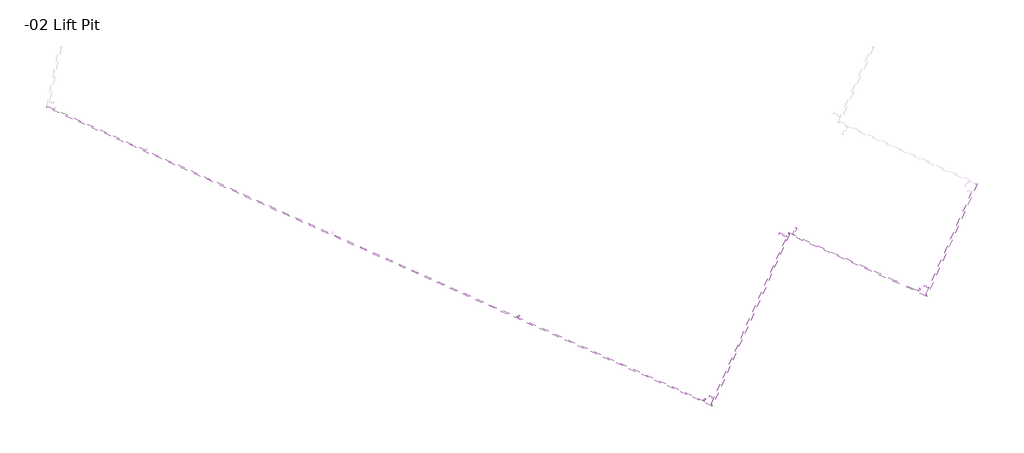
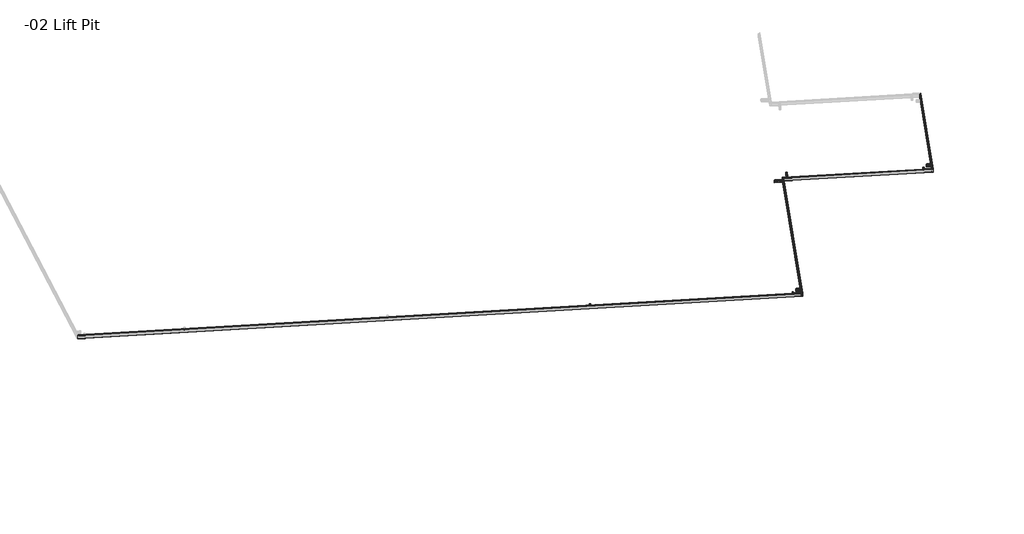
# One storey, part 2 of 3: 11 beams.
"""IFC4 building model written with IfcOpenShell, lengths in millimetres."""

from ifc_helpers import new_model, si_unit, frame, origin, place, context, project, spatial, polyline, ellipse_curve, transform, mapped, element, save
from ifc_brep_helpers import plane_surface, cylinder_surface, revolved_surface, advanced_brep
from components import hss_hollow_structural_section_hss3x2x1_8_9bae5ac0, hss_hollow_structural_section_hss3x2x1_8_4448584e, hss_hollow_structural_section_hss3x2x1_8_ec86c395, hss_hollow_structural_section_hss3x2x1_8_a59be2b4, hss_hollow_structural_section_hss3x2x1_8_24952963

model = new_model("IFC4")

# Units and contexts
model_context = context("Model", 3, world=origin())
ifc_project = project(units=[si_unit("LENGTHUNIT", "METRE", prefix="MILLI")], contexts=[model_context])

# Site, building, storey
site = spatial("IfcSite", under=ifc_project)
building = spatial("IfcBuilding", under=site)
storey = spatial("IfcBuildingStorey", under=building, Name="-02 Lift Pit", Elevation=-2133.6)

# Beams
placement = place(None, origin())
hss_hollow_structural_section_hss3x2x1_8_shape = hss_hollow_structural_section_hss3x2x1_8_9bae5ac0(model_context)
element("IfcBeam", 1, ObjectType="HSS-Hollow Structural Section : HSS3X2X1/8", at=placement, inside=storey, context=model_context, shape_type="MappedRepresentation", body=[
    mapped(hss_hollow_structural_section_hss3x2x1_8_shape, transform((57874.4831972, -20293.602729, 16256.4818369), x_axis=(0.9121951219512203, -0.40975609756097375, 0.0), y_axis=(0.4091945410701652, 0.9109449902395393, 0.052335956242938), z_axis=(-0.021444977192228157, -0.047740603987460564, 0.9986295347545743))),
])
element("IfcBeam", 2, ObjectType="HSS-Hollow Structural Section : HSS3X2X1/8", at=placement, inside=storey, context=model_context, shape_type="MappedRepresentation", body=[
    mapped(hss_hollow_structural_section_hss3x2x1_8_shape, transform((50488.6588069, -24090.2832168, 15916.3710717), x_axis=(0.9121951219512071, -0.4097560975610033, 0.0), y_axis=(0.4091945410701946, 0.910944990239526, 0.052335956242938), z_axis=(-0.021444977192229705, -0.04774060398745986, 0.9986295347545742))),
])
hss_hollow_structural_section_hss3x2x1_8_2_shape = hss_hollow_structural_section_hss3x2x1_8_4448584e(model_context)
element("IfcBeam", 3, ObjectType="HSS-Hollow Structural Section : HSS3X2X1/8", at=placement, inside=storey, context=model_context, shape_type="MappedRepresentation", body=[
    mapped(hss_hollow_structural_section_hss3x2x1_8_2_shape, transform((52986.4238112, -18529.7825525, 16235.8350597), x_axis=(0.9121951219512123, -0.4097560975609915, 0.0), y_axis=(0.4091945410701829, 0.9109449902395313, 0.052335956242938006), z_axis=(-0.021444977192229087, -0.04774060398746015, 0.9986295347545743))),
])
hss_hollow_structural_section_hss3x2x1_8_3_shape = hss_hollow_structural_section_hss3x2x1_8_ec86c395(model_context)
element("IfcBeam", 4, ObjectType="HSS-Hollow Structural Section : HSS3X2X1/8", at=placement, inside=storey, context=model_context, shape_type="MappedRepresentation", body=[
    mapped(hss_hollow_structural_section_hss3x2x1_8_3_shape, transform((57680.7339429, -20352.9969021, 16249.4817815), x_axis=(-0.40919454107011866, -0.9109449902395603, -0.052335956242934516), y_axis=(0.9121951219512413, -0.4097560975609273, 0.0), z_axis=(-0.021444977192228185, -0.047740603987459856, 0.9986295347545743))),
])
hss_hollow_structural_section_hss3x2x1_8_4_shape = hss_hollow_structural_section_hss3x2x1_8_a59be2b4(model_context)
element("IfcBeam", 5, ObjectType="HSS-Hollow Structural Section : HSS3X2X1/8", at=placement, inside=storey, context=model_context, shape_type="MappedRepresentation", body=[
    mapped(hss_hollow_structural_section_hss3x2x1_8_4_shape, transform((53373.5930685, -18411.7271821, 16249.7930592), x_axis=(0.40919454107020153, 0.9109449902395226, 0.05233595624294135), y_axis=(-0.9121951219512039, 0.4097560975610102, 0.0), z_axis=(-0.0214449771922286, -0.04774060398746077, 0.9986295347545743))),
])
hss_hollow_structural_section_hss3x2x1_8_5_shape = hss_hollow_structural_section_hss3x2x1_8_24952963(model_context)
element("IfcBeam", 6, ObjectType="HSS-Hollow Structural Section : HSS3X2X1/8", at=placement, inside=storey, context=model_context, shape_type="MappedRepresentation", body=[
    mapped(hss_hollow_structural_section_hss3x2x1_8_5_shape, transform((50298.5513886, -24141.5699695, 15909.8368069), x_axis=(-0.4091945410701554, -0.9109449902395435, -0.052335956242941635), y_axis=(0.9121951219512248, -0.40975609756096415, 0.0), z_axis=(-0.021444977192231, -0.047740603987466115, 0.9986295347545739))),
])
element("IfcBeam", 7, ObjectType="HSS-Hollow Structural Section : HSS3X2X1/8", at=placement, inside=storey, context=model_context, shape_type="MappedRepresentation", body=[
    mapped(hss_hollow_structural_section_hss3x2x1_8_5_shape, transform((43903.6987057, -21269.0158231, 15909.8368069), x_axis=(-0.40919454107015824, -0.9109449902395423, -0.05233595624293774), y_axis=(0.9121951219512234, -0.4097560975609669, 0.0), z_axis=(-0.021444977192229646, -0.04774060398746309, 0.998629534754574))),
])
element("IfcBeam", 8, ObjectType="HSS-Hollow Structural Section : HSS5X2X1/8", at=placement, inside=storey, context=model_context, shape_type="AdvancedBrep", body=[
    advanced_brep(
    [(57913.0353778, -20627.3136604, 16279.5085835), (57916.1258305, -20634.8149619, 16273.315454), (59660.4424441, -16751.6339293, 16496.4134399), (59652.5293881, -16754.8686611, 16501.9897587), (57893.4111119, -20575.7872998, 16281.5504394), (59600.9761633, -16774.422245, 16499.9479028), (57890.573401, -20567.7233466, 16275.9741206), (59593.3158492, -16777.0943251, 16493.7547733), (57893.0441712, -20562.2229416, 16160.9176179), (59595.7866194, -16771.59392, 16378.6982707), (57896.134624, -20569.7242431, 16154.7244885), (59603.6996754, -16768.3591883, 16373.1219519), (57915.7588899, -20621.2506036, 16152.6826325), (59655.2529002, -16748.8056044, 16375.1638078), (57918.5966007, -20629.3145568, 16158.2589513), (59662.9132143, -16746.1335243, 16381.3569373), (57913.0985632, -20627.1729974, 16276.5662214), (57893.4742974, -20575.6466369, 16278.6080773), (59601.0393487, -16774.2815821, 16497.0055407), (59652.5925736, -16754.7279982, 16499.0473967), (57914.6437896, -20630.9236482, 16273.4696567), (59656.5491016, -16753.1106323, 16496.2592373), (57917.1145598, -20625.4232432, 16158.413154), (59659.0198718, -16747.6102272, 16381.2027346), (57915.6957044, -20621.3912666, 16155.6249946), (59655.1897147, -16748.9462673, 16378.1061699), (57896.0714385, -20569.864906, 16157.6668505), (59603.6364899, -16768.4998512, 16376.0643139), (57894.5262121, -20566.1142553, 16160.7634153), (59599.6799619, -16770.1172171, 16378.8524733), (57892.0554419, -20571.6146603, 16275.8199179), (59597.2091917, -16775.6176221, 16493.908976)],
    [
        (0, 1, ellipse_curve(frame((57913.1617487, -20627.0323345, 16273.6238593), z_axis=(0.9343635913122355, 0.354394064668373, 0.03700710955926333), x_axis=(-0.3556751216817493, 0.933876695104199, 0.03700710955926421)), 8.3336777, 5.8928)),
        (1, 2),
        (2, 3, ellipse_curve(frame((59652.6557591, -16754.5873352, 16496.1050346), z_axis=(0.35567512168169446, -0.93387669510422, -0.03700710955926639), x_axis=(0.9343635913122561, 0.35439406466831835, 0.03700710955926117)), 8.3336777, 5.8928)),
        (3, 0),
        (4, 0),
        (3, 5),
        (5, 4),
        (6, 4, ellipse_curve(frame((57893.5374829, -20575.505974, 16275.6657153), z_axis=(0.9343635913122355, 0.354394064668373, 0.03700710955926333), x_axis=(-0.3556751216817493, 0.933876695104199, 0.03700710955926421)), 8.3336777, 5.8928)),
        (5, 7, ellipse_curve(frame((59601.1025342, -16774.1409192, 16494.0631787), z_axis=(0.35567512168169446, -0.93387669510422, -0.03700710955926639), x_axis=(0.9343635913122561, 0.35439406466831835, 0.03700710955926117)), 8.3336777, 5.8928)),
        (7, 6),
        (8, 6),
        (7, 9),
        (9, 8),
        (10, 8, ellipse_curve(frame((57896.008253, -20570.005569, 16160.6092126), z_axis=(0.9343635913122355, 0.354394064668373, 0.03700710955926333), x_axis=(-0.3556751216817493, 0.933876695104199, 0.03700710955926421)), 8.3336777, 5.8928)),
        (9, 11, ellipse_curve(frame((59603.5733044, -16768.6405141, 16379.006676), z_axis=(0.35567512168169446, -0.93387669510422, -0.03700710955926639), x_axis=(0.9343635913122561, 0.35439406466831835, 0.03700710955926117)), 8.3336777, 5.8928)),
        (11, 10),
        (12, 10),
        (11, 13),
        (13, 12),
        (14, 12, ellipse_curve(frame((57915.6325189, -20621.5319295, 16158.5673567), z_axis=(0.9343635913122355, 0.354394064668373, 0.03700710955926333), x_axis=(-0.3556751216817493, 0.933876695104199, 0.03700710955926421)), 8.3336777, 5.8928)),
        (13, 15, ellipse_curve(frame((59655.1265293, -16749.0869302, 16381.0485319), z_axis=(0.35567512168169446, -0.93387669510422, -0.03700710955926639), x_axis=(0.9343635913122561, 0.35439406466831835, 0.03700710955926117)), 8.3336777, 5.8928)),
        (15, 14),
        (1, 14),
        (15, 2),
        (16, 17),
        (17, 18),
        (18, 19),
        (19, 16),
        (20, 16, ellipse_curve(frame((57913.1617487, -20627.0323345, 16273.6238593), z_axis=(-0.9343635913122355, -0.354394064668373, -0.03700710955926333), x_axis=(-0.3556751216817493, 0.933876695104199, 0.03700710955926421)), 4.1668388, 2.9464)),
        (19, 21, ellipse_curve(frame((59652.6557591, -16754.5873352, 16496.1050346), z_axis=(-0.35567512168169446, 0.93387669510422, 0.03700710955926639), x_axis=(0.9343635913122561, 0.35439406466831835, 0.03700710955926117)), 4.1668388, 2.9464)),
        (21, 20),
        (22, 20),
        (21, 23),
        (23, 22),
        (24, 22, ellipse_curve(frame((57915.6325189, -20621.5319295, 16158.5673567), z_axis=(-0.9343635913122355, -0.354394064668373, -0.03700710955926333), x_axis=(-0.3556751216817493, 0.933876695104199, 0.03700710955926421)), 4.1668388, 2.9464)),
        (23, 25, ellipse_curve(frame((59655.1265293, -16749.0869302, 16381.0485319), z_axis=(-0.35567512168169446, 0.93387669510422, 0.03700710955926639), x_axis=(0.9343635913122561, 0.35439406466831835, 0.03700710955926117)), 4.1668388, 2.9464)),
        (25, 24),
        (26, 24),
        (25, 27),
        (27, 26),
        (28, 26, ellipse_curve(frame((57896.008253, -20570.005569, 16160.6092126), z_axis=(-0.9343635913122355, -0.354394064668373, -0.03700710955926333), x_axis=(-0.3556751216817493, 0.933876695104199, 0.03700710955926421)), 4.1668388, 2.9464)),
        (27, 29, ellipse_curve(frame((59603.5733044, -16768.6405141, 16379.006676), z_axis=(-0.35567512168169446, 0.93387669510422, 0.03700710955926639), x_axis=(0.9343635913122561, 0.35439406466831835, 0.03700710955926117)), 4.1668388, 2.9464)),
        (29, 28),
        (30, 28),
        (29, 31),
        (31, 30),
        (17, 30, ellipse_curve(frame((57893.5374829, -20575.505974, 16275.6657153), z_axis=(-0.9343635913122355, -0.354394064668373, -0.03700710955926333), x_axis=(-0.3556751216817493, 0.933876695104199, 0.03700710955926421)), 4.1668388, 2.9464)),
        (31, 18, ellipse_curve(frame((59601.1025342, -16774.1409192, 16494.0631787), z_axis=(-0.35567512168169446, 0.93387669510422, 0.03700710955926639), x_axis=(0.9343635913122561, 0.35439406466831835, 0.03700710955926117)), 4.1668388, 2.9464)),
    ],
    [
        cylinder_surface(frame((57921.1439885, -20609.2623484, 16274.6447873), z_axis=(0.4091945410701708, 0.9109449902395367, 0.052335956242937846), x_axis=(-0.021444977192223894, -0.04774060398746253, 0.9986295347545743)), 5.8928),
        plane_surface(frame((57903.2232448, -20601.5504801, 16280.5295114), z_axis=(-0.021444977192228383, -0.04774060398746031, 0.9986295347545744), x_axis=(-0.9121951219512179, 0.4097560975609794, 0.0))),
        cylinder_surface(frame((57885.5552431, -20593.2759601, 16274.6447873), z_axis=(0.4091945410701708, 0.9109449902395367, 0.052335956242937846), x_axis=(-0.912195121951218, 0.40975609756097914, 0.0)), 5.8928),
        plane_surface(frame((57881.4152448, -20588.1111469, 16217.116536), z_axis=(-0.912195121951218, 0.40975609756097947, 0.0), x_axis=(0.021444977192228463, 0.047740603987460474, -0.9986295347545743))),
        cylinder_surface(frame((57888.0260133, -20587.7755551, 16159.5882846), z_axis=(0.4091945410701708, 0.9109449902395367, 0.052335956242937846), x_axis=(0.021444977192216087, 0.04774060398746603, -0.9986295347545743)), 5.8928),
        plane_surface(frame((57905.9467569, -20595.4874234, 16153.7035605), z_axis=(0.021444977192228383, 0.04774060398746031, -0.9986295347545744), x_axis=(0.9121951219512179, -0.4097560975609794, 0.0))),
        cylinder_surface(frame((57923.6147586, -20603.7619434, 16159.5882846), z_axis=(0.4091945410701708, 0.9109449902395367, 0.052335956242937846), x_axis=(0.9121951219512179, -0.4097560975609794, 0.0)), 5.8928),
        plane_surface(frame((57927.754757, -20608.9267566, 16217.116536), z_axis=(0.912195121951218, -0.40975609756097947, 0.0), x_axis=(-0.021444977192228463, -0.047740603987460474, 0.9986295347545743))),
        plane_surface(frame((57903.2864303, -20601.4098172, 16277.5871494), z_axis=(0.021444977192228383, 0.04774060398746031, -0.9986295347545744), x_axis=(0.9121951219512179, -0.4097560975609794, 0.0))),
        revolved_surface(polyline([(59656.54910162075, -16753.110632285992, 16496.259237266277), (57914.64378965, -20630.923648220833, 16273.469656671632)]), (57921.1439885, -20609.2623484, 16274.6447873), (0.4091945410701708, 0.9109449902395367, 0.052335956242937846)),
        plane_surface(frame((57925.0670653, -20607.7194513, 16217.116536), z_axis=(-0.912195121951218, 0.40975609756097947, 0.0), x_axis=(0.021444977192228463, 0.047740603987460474, -0.9986295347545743))),
        revolved_surface(polyline([(59656.39536554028, -16746.26225890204, 16378.260372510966), (57914.490053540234, -20624.075274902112, 16155.470791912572)]), (57923.6147586, -20603.7619434, 16159.5882846), (0.4091945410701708, 0.9109449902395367, 0.052335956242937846)),
        plane_surface(frame((57905.8835714, -20595.6280863, 16156.6459226), z_axis=(-0.021444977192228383, -0.04774060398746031, 0.9986295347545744), x_axis=(-0.9121951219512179, 0.4097560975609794, 0.0))),
        revolved_surface(polyline([(59602.09126351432, -16764.749200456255, 16379.160878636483), (57892.11491054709, -20571.482271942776, 16160.455009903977)]), (57888.0260133, -20587.7755551, 16159.5882846), (0.4091945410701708, 0.9109449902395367, 0.052335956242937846)),
        plane_surface(frame((57884.1029365, -20589.3184522, 16217.116536), z_axis=(0.912195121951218, -0.40975609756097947, 0.0), x_axis=(-0.021444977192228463, -0.047740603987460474, 0.9986295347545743))),
        revolved_surface(polyline([(59602.244999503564, -16771.597573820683, 16497.159743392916), (57892.26864659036, -20578.330645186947, 16278.453874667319)]), (57885.5552431, -20593.2759601, 16274.6447873), (0.4091945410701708, 0.9109449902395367, 0.052335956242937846)),
        plane_surface(frame((59591.555371, -16781.0134849, 16575.735068), z_axis=(-0.3556751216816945, 0.9338766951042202, 0.0370071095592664), x_axis=(0.9346096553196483, 0.35539618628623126, 0.014083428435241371))),
        plane_surface(frame((57888.8129228, -20571.6425065, 16357.9544153), z_axis=(-0.9343635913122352, -0.3543940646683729, -0.037007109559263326), x_axis=(0.35632103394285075, -0.9293105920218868, -0.09704197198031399))),
    ],
    [
        (0, [[1, 2, 3, 4]]),
        (1, [[5, -4, 6, 7]]),
        (2, [[8, -7, 9, 10]]),
        (3, [[11, -10, 12, 13]]),
        (4, [[14, -13, 15, 16]]),
        (5, [[17, -16, 18, 19]]),
        (6, [[20, -19, 21, 22]]),
        (7, [[23, -22, 24, -2]]),
        (8, [[25, 26, 27, 28]]),
        (9, [[29, -28, 30, 31]]),
        (10, [[32, -31, 33, 34]]),
        (11, [[35, -34, 36, 37]]),
        (12, [[38, -37, 39, 40]]),
        (13, [[41, -40, 42, 43]]),
        (14, [[44, -43, 45, 46]]),
        (15, [[47, -46, 48, -26]]),
        (16, [[-24, -21, -18, -15, -12, -9, -6, -3], [-48, -45, -42, -39, -36, -33, -30, -27]]),
        (17, [[-1, -5, -8, -11, -14, -17, -20, -23], [-25, -29, -32, -35, -38, -41, -44, -47]]),
    ],
),
])
element("IfcBeam", 9, ObjectType="HSS-Hollow Structural Section : HSS5X2X1/8", at=placement, inside=storey, context=model_context, shape_type="AdvancedBrep", body=[
    advanced_brep(
    [(53186.4051338, -18504.1214652, 16279.5085835), (53189.4955866, -18511.6227668, 16273.315454), (57916.1258305, -20634.8149619, 16273.315454), (57913.0353778, -20627.3136604, 16279.5085835), (53166.780868, -18452.5951047, 16281.5504394), (57893.4111119, -20575.7872998, 16281.5504394), (53163.9431571, -18444.5311515, 16275.9741206), (57890.573401, -20567.7233466, 16275.9741206), (53166.4139273, -18439.0307465, 16160.9176179), (57893.0441712, -20562.2229416, 16160.9176179), (53169.5043801, -18446.532048, 16154.7244885), (57896.134624, -20569.7242431, 16154.7244885), (53189.128646, -18498.0584085, 16152.6826325), (57915.7588899, -20621.2506036, 16152.6826325), (53191.9663568, -18506.1223617, 16158.2589513), (57918.5966007, -20629.3145568, 16158.2589513), (53186.4683193, -18503.9808023, 16276.5662214), (53166.8440535, -18452.4544418, 16278.6080773), (57893.4742974, -20575.6466369, 16278.6080773), (57913.0985632, -20627.1729974, 16276.5662214), (53188.0135457, -18507.7314531, 16273.4696567), (57914.6437896, -20630.9236482, 16273.4696567), (53190.4843159, -18502.231048, 16158.413154), (57917.1145598, -20625.4232432, 16158.413154), (53189.0654605, -18498.1990714, 16155.6249946), (57915.6957044, -20621.3912666, 16155.6249946), (53169.4411946, -18446.6727109, 16157.6668505), (57896.0714385, -20569.864906, 16157.6668505), (53167.8959682, -18442.9220602, 16160.7634153), (57894.5262121, -20566.1142553, 16160.7634153), (53165.425198, -18448.4224652, 16275.8199179), (57892.0554419, -20571.6146603, 16275.8199179)],
    [
        (0, 1, ellipse_curve(frame((53186.5315048, -18503.8401394, 16273.6238593), z_axis=(0.9343635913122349, 0.354394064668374, 0.037007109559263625), x_axis=(0.3556751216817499, -0.9338766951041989, -0.03700710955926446)), 8.3336777, 5.8928)),
        (1, 2),
        (2, 3, ellipse_curve(frame((57913.1617487, -20627.0323345, 16273.6238593), z_axis=(-0.9343635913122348, -0.354394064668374, -0.03700710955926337), x_axis=(0.3556751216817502, -0.9338766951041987, -0.03700710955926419)), 8.3336777, 5.8928)),
        (3, 0),
        (4, 0),
        (3, 5),
        (5, 4),
        (6, 4, ellipse_curve(frame((53166.9072389, -18452.3137789, 16275.6657153), z_axis=(0.9343635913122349, 0.354394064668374, 0.037007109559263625), x_axis=(0.3556751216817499, -0.9338766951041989, -0.03700710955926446)), 8.3336777, 5.8928)),
        (5, 7, ellipse_curve(frame((57893.5374829, -20575.505974, 16275.6657153), z_axis=(-0.9343635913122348, -0.354394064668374, -0.03700710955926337), x_axis=(0.3556751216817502, -0.9338766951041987, -0.03700710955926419)), 8.3336777, 5.8928)),
        (7, 6),
        (8, 6),
        (7, 9),
        (9, 8),
        (10, 8, ellipse_curve(frame((53169.3780091, -18446.8133738, 16160.6092126), z_axis=(0.9343635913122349, 0.354394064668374, 0.037007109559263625), x_axis=(0.3556751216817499, -0.9338766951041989, -0.03700710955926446)), 8.3336777, 5.8928)),
        (9, 11, ellipse_curve(frame((57896.008253, -20570.005569, 16160.6092126), z_axis=(-0.9343635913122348, -0.354394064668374, -0.03700710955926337), x_axis=(0.3556751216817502, -0.9338766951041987, -0.03700710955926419)), 8.3336777, 5.8928)),
        (11, 10),
        (12, 10),
        (11, 13),
        (13, 12),
        (14, 12, ellipse_curve(frame((53189.002275, -18498.3397344, 16158.5673567), z_axis=(0.9343635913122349, 0.354394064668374, 0.037007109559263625), x_axis=(0.3556751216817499, -0.9338766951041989, -0.03700710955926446)), 8.3336777, 5.8928)),
        (13, 15, ellipse_curve(frame((57915.6325189, -20621.5319295, 16158.5673567), z_axis=(-0.9343635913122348, -0.354394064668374, -0.03700710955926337), x_axis=(0.3556751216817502, -0.9338766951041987, -0.03700710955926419)), 8.3336777, 5.8928)),
        (15, 14),
        (1, 14),
        (15, 2),
        (16, 17),
        (17, 18),
        (18, 19),
        (19, 16),
        (20, 16, ellipse_curve(frame((53186.5315048, -18503.8401394, 16273.6238593), z_axis=(-0.9343635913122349, -0.354394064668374, -0.037007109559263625), x_axis=(0.3556751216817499, -0.9338766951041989, -0.03700710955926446)), 4.1668388, 2.9464)),
        (19, 21, ellipse_curve(frame((57913.1617487, -20627.0323345, 16273.6238593), z_axis=(0.9343635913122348, 0.354394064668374, 0.03700710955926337), x_axis=(0.3556751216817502, -0.9338766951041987, -0.03700710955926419)), 4.1668388, 2.9464)),
        (21, 20),
        (22, 20),
        (21, 23),
        (23, 22),
        (24, 22, ellipse_curve(frame((53189.002275, -18498.3397344, 16158.5673567), z_axis=(-0.9343635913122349, -0.354394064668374, -0.037007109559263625), x_axis=(0.3556751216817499, -0.9338766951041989, -0.03700710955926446)), 4.1668388, 2.9464)),
        (23, 25, ellipse_curve(frame((57915.6325189, -20621.5319295, 16158.5673567), z_axis=(0.9343635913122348, 0.354394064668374, 0.03700710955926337), x_axis=(0.3556751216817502, -0.9338766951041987, -0.03700710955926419)), 4.1668388, 2.9464)),
        (25, 24),
        (26, 24),
        (25, 27),
        (27, 26),
        (28, 26, ellipse_curve(frame((53169.3780091, -18446.8133738, 16160.6092126), z_axis=(-0.9343635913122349, -0.354394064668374, -0.037007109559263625), x_axis=(0.3556751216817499, -0.9338766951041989, -0.03700710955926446)), 4.1668388, 2.9464)),
        (27, 29, ellipse_curve(frame((57896.008253, -20570.005569, 16160.6092126), z_axis=(0.9343635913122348, 0.354394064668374, 0.03700710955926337), x_axis=(0.3556751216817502, -0.9338766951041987, -0.03700710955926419)), 4.1668388, 2.9464)),
        (29, 28),
        (30, 28),
        (29, 31),
        (31, 30),
        (17, 30, ellipse_curve(frame((53166.9072389, -18452.3137789, 16275.6657153), z_axis=(-0.9343635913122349, -0.354394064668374, -0.037007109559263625), x_axis=(0.3556751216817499, -0.9338766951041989, -0.03700710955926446)), 4.1668388, 2.9464)),
        (31, 18, ellipse_curve(frame((57893.5374829, -20575.505974, 16275.6657153), z_axis=(0.9343635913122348, 0.354394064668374, 0.03700710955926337), x_axis=(0.3556751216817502, -0.9338766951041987, -0.03700710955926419)), 4.1668388, 2.9464)),
    ],
    [
        cylinder_surface(frame((53168.7371321, -18495.8469453, 16273.6238593), z_axis=(0.9121951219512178, -0.4097560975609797, 0.0), x_axis=(-0.021444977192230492, -0.047740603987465, 0.998629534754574)), 5.8928),
        plane_surface(frame((53176.5930009, -18478.358285, 16280.5295114), z_axis=(-0.021444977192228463, -0.04774060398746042, 0.9986295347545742), x_axis=(0.409194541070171, 0.9109449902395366, 0.05233595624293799))),
        cylinder_surface(frame((53184.7016116, -18460.306973, 16275.6657153), z_axis=(0.9121951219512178, -0.4097560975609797, 0.0), x_axis=(0.409194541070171, 0.9109449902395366, 0.05233595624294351)), 5.8928),
        plane_surface(frame((53188.3482983, -18452.1887539, 16218.4458693), z_axis=(0.4091945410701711, 0.9109449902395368, 0.052335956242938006), x_axis=(0.021444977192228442, 0.04774060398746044, -0.9986295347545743))),
        cylinder_surface(frame((53187.1723818, -18454.806568, 16160.6092126), z_axis=(0.9121951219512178, -0.4097560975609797, 0.0), x_axis=(0.021444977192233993, 0.0477406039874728, -0.9986295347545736)), 5.8928),
        plane_surface(frame((53179.316513, -18472.2952283, 16153.7035605), z_axis=(0.021444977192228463, 0.04774060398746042, -0.9986295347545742), x_axis=(-0.409194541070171, -0.9109449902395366, -0.05233595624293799))),
        cylinder_surface(frame((53171.2079023, -18490.3465402, 16158.5673567), z_axis=(0.9121951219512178, -0.4097560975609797, 0.0), x_axis=(-0.4091945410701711, -0.9109449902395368, -0.05233595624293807)), 5.8928),
        plane_surface(frame((53167.5612156, -18498.4647594, 16215.7872027), z_axis=(-0.4091945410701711, -0.9109449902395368, -0.052335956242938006), x_axis=(-0.021444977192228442, -0.04774060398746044, 0.9986295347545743))),
        plane_surface(frame((53176.6561864, -18478.2176221, 16277.5871494), z_axis=(0.021444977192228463, 0.04774060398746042, -0.9986295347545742), x_axis=(-0.409194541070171, -0.9109449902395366, -0.05233595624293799))),
        revolved_surface(polyline([(57914.64378957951, -20630.92364824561, 16273.469656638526), (53182.638162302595, -18505.316842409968, 16273.469656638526)]), (53168.7371321, -18495.8469453, 16273.6238593), (0.9121951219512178, -0.4097560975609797, 0.0)),
        plane_surface(frame((53168.7668664, -18495.7807511, 16215.9414053), z_axis=(0.4091945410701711, 0.9109449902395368, 0.052335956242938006), x_axis=(0.021444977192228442, 0.04774060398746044, -0.9986295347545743))),
        revolved_surface(polyline([(57918.3833960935, -20622.598571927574, 16155.624994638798), (53186.37776881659, -18496.99176609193, 16155.624994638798)]), (53171.2079023, -18490.3465402, 16158.5673567), (0.9121951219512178, -0.4097560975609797, 0.0)),
        plane_surface(frame((53179.2533275, -18472.4358912, 16156.6459226), z_axis=(-0.021444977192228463, -0.04774060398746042, 0.9986295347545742), x_axis=(0.409194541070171, 0.9109449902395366, 0.05233595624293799))),
        revolved_surface(polyline([(57899.9015954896, -20568.528866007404, 16160.763415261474), (53167.89596819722, -18442.922060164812, 16160.763415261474)]), (53187.1723818, -18454.806568, 16160.6092126), (0.9121951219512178, -0.4097560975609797, 0.0)),
        plane_surface(frame((53187.1426475, -18454.8727622, 16218.2916666), z_axis=(-0.4091945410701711, -0.9109449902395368, -0.052335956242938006), x_axis=(-0.021444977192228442, -0.04774060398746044, 0.9986295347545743))),
        revolved_surface(polyline([(57896.161989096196, -20576.85394227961, 16278.608077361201), (53164.15636173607, -18451.24713640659, 16278.608077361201)]), (53184.7016116, -18460.306973, 16275.6657153), (0.9121951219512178, -0.4097560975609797, 0.0)),
        plane_surface(frame((57888.8129228, -20571.6425065, 16357.9544153), z_axis=(0.934363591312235, 0.35439406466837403, 0.037007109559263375), x_axis=(0.3563210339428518, -0.9293105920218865, -0.09704197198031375))),
        plane_surface(frame((53187.7351084, -18515.5419266, 16355.2957487), z_axis=(-0.9343635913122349, -0.354394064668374, -0.037007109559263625), x_axis=(0.35632103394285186, -0.9293105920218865, -0.09704197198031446))),
    ],
    [
        (0, [[1, 2, 3, 4]]),
        (1, [[5, -4, 6, 7]]),
        (2, [[8, -7, 9, 10]]),
        (3, [[11, -10, 12, 13]]),
        (4, [[14, -13, 15, 16]]),
        (5, [[17, -16, 18, 19]]),
        (6, [[20, -19, 21, 22]]),
        (7, [[23, -22, 24, -2]]),
        (8, [[25, 26, 27, 28]]),
        (9, [[29, -28, 30, 31]]),
        (10, [[32, -31, 33, 34]]),
        (11, [[35, -34, 36, 37]]),
        (12, [[38, -37, 39, 40]]),
        (13, [[41, -40, 42, 43]]),
        (14, [[44, -43, 45, 46]]),
        (15, [[47, -46, 48, -26]]),
        (16, [[-24, -21, -18, -15, -12, -9, -6, -3], [-48, -45, -42, -39, -36, -33, -30, -27]]),
        (17, [[-1, -5, -8, -11, -14, -17, -20, -23], [-25, -29, -32, -35, -38, -41, -44, -47]]),
    ],
),
])
element("IfcBeam", 10, ObjectType="HSS-Hollow Structural Section : HSS5X2X1/8", at=placement, inside=storey, context=model_context, shape_type="AdvancedBrep", body=[
    advanced_brep(
    [(50534.4946594, -24407.7793072, 15940.3293994), (50537.5851122, -24415.2806087, 15934.13627), (53189.4955866, -18511.6227668, 16273.315454), (53186.4051338, -18504.1214652, 16279.5085835), (50514.8703935, -24356.2529467, 15942.3712554), (53166.780868, -18452.5951047, 16281.5504394), (50512.0326827, -24348.1889935, 15936.7949366), (53163.9431571, -18444.5311515, 16275.9741206), (50514.5034528, -24342.6885884, 15821.7384339), (53166.4139273, -18439.0307465, 16160.9176179), (50517.5939056, -24350.1898899, 15815.5453044), (53169.5043801, -18446.532048, 16154.7244885), (50537.2181715, -24401.7162505, 15813.5034485), (53189.128646, -18498.0584085, 16152.6826325), (50540.0558824, -24409.7802037, 15819.0797673), (53191.9663568, -18506.1223617, 16158.2589513), (50534.5578449, -24407.6386443, 15937.3870374), (50514.933579, -24356.1122837, 15939.4288933), (53166.8440535, -18452.4544418, 16278.6080773), (53186.4683193, -18503.9808023, 16276.5662214), (50536.1030713, -24411.389295, 15934.2904726), (53188.0135457, -18507.7314531, 16273.4696567), (50538.5738414, -24405.88889, 15819.23397), (53190.4843159, -18502.231048, 16158.413154), (50537.154986, -24401.8569134, 15816.4458106), (53189.0654605, -18498.1990714, 16155.6249946), (50517.5307202, -24350.3305529, 15818.4876665), (53169.4411946, -18446.6727109, 16157.6668505), (50515.9854938, -24346.5799021, 15821.5842312), (53167.8959682, -18442.9220602, 16160.7634153), (50513.5147236, -24352.0803071, 15936.6407339), (53165.425198, -18448.4224652, 16275.8199179)],
    [
        (0, 1, ellipse_curve(frame((50534.6210304, -24407.4979813, 15934.4446753), z_axis=(0.9343635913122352, 0.354394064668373, 0.0370071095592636), x_axis=(-0.3556751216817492, 0.9338766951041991, 0.037007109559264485)), 8.3336777, 5.8928)),
        (1, 2),
        (2, 3, ellipse_curve(frame((53186.5315048, -18503.8401394, 16273.6238593), z_axis=(-0.9343635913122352, -0.354394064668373, -0.0370071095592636), x_axis=(-0.3556751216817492, 0.9338766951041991, 0.037007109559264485)), 8.3336777, 5.8928)),
        (3, 0),
        (4, 0),
        (3, 5),
        (5, 4),
        (6, 4, ellipse_curve(frame((50514.9967645, -24355.9716208, 15936.4865312), z_axis=(0.9343635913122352, 0.354394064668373, 0.0370071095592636), x_axis=(-0.3556751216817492, 0.9338766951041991, 0.037007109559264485)), 8.3336777, 5.8928)),
        (5, 7, ellipse_curve(frame((53166.9072389, -18452.3137789, 16275.6657153), z_axis=(-0.9343635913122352, -0.354394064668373, -0.0370071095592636), x_axis=(-0.3556751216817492, 0.9338766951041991, 0.037007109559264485)), 8.3336777, 5.8928)),
        (7, 6),
        (8, 6),
        (7, 9),
        (9, 8),
        (10, 8, ellipse_curve(frame((50517.4675347, -24350.4712158, 15821.4300286), z_axis=(0.9343635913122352, 0.354394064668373, 0.0370071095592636), x_axis=(-0.3556751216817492, 0.9338766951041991, 0.037007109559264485)), 8.3336777, 5.8928)),
        (9, 11, ellipse_curve(frame((53169.3780091, -18446.8133738, 16160.6092126), z_axis=(-0.9343635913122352, -0.354394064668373, -0.0370071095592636), x_axis=(-0.3556751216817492, 0.9338766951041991, 0.037007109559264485)), 8.3336777, 5.8928)),
        (11, 10),
        (12, 10),
        (11, 13),
        (13, 12),
        (14, 12, ellipse_curve(frame((50537.0918005, -24401.9975763, 15819.3881726), z_axis=(0.9343635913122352, 0.354394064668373, 0.0370071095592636), x_axis=(-0.3556751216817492, 0.9338766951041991, 0.037007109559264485)), 8.3336777, 5.8928)),
        (13, 15, ellipse_curve(frame((53189.002275, -18498.3397344, 16158.5673567), z_axis=(-0.9343635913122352, -0.354394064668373, -0.0370071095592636), x_axis=(-0.3556751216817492, 0.9338766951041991, 0.037007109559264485)), 8.3336777, 5.8928)),
        (15, 14),
        (1, 14),
        (15, 2),
        (16, 17),
        (17, 18),
        (18, 19),
        (19, 16),
        (20, 16, ellipse_curve(frame((50534.6210304, -24407.4979813, 15934.4446753), z_axis=(-0.9343635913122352, -0.354394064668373, -0.0370071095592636), x_axis=(-0.3556751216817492, 0.9338766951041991, 0.037007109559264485)), 4.1668388, 2.9464)),
        (19, 21, ellipse_curve(frame((53186.5315048, -18503.8401394, 16273.6238593), z_axis=(0.9343635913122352, 0.354394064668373, 0.0370071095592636), x_axis=(-0.3556751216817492, 0.9338766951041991, 0.037007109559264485)), 4.1668388, 2.9464)),
        (21, 20),
        (22, 20),
        (21, 23),
        (23, 22),
        (24, 22, ellipse_curve(frame((50537.0918005, -24401.9975763, 15819.3881726), z_axis=(-0.9343635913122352, -0.354394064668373, -0.0370071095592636), x_axis=(-0.3556751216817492, 0.9338766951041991, 0.037007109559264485)), 4.1668388, 2.9464)),
        (23, 25, ellipse_curve(frame((53189.002275, -18498.3397344, 16158.5673567), z_axis=(0.9343635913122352, 0.354394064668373, 0.0370071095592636), x_axis=(-0.3556751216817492, 0.9338766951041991, 0.037007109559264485)), 4.1668388, 2.9464)),
        (25, 24),
        (26, 24),
        (25, 27),
        (27, 26),
        (28, 26, ellipse_curve(frame((50517.4675347, -24350.4712158, 15821.4300286), z_axis=(-0.9343635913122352, -0.354394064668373, -0.0370071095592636), x_axis=(-0.3556751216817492, 0.9338766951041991, 0.037007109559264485)), 4.1668388, 2.9464)),
        (27, 29, ellipse_curve(frame((53169.3780091, -18446.8133738, 16160.6092126), z_axis=(0.9343635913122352, 0.354394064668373, 0.0370071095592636), x_axis=(-0.3556751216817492, 0.9338766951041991, 0.037007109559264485)), 4.1668388, 2.9464)),
        (29, 28),
        (30, 28),
        (29, 31),
        (31, 30),
        (17, 30, ellipse_curve(frame((50514.9967645, -24355.9716208, 15936.4865312), z_axis=(-0.9343635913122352, -0.354394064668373, -0.0370071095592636), x_axis=(-0.3556751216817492, 0.9338766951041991, 0.037007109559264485)), 4.1668388, 2.9464)),
        (31, 18, ellipse_curve(frame((53166.9072389, -18452.3137789, 16275.6657153), z_axis=(0.9343635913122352, 0.354394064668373, 0.0370071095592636), x_axis=(-0.3556751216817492, 0.9338766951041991, 0.037007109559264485)), 4.1668388, 2.9464)),
    ],
    [
        cylinder_surface(frame((50542.6032701, -24389.7279952, 15935.4656033), z_axis=(0.40919454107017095, 0.9109449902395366, 0.05233595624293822), x_axis=(-0.021444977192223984, -0.04774060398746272, 0.9986295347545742)), 5.8928),
        plane_surface(frame((50524.6825265, -24382.0161269, 15941.3503274), z_axis=(-0.02144497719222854, -0.04774060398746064, 0.9986295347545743), x_axis=(-0.9121951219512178, 0.40975609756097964, 0.0))),
        cylinder_surface(frame((50507.0145247, -24373.7416069, 15935.4656033), z_axis=(0.40919454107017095, 0.9109449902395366, 0.05233595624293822), x_axis=(-0.9121951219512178, 0.4097560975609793, 0.0)), 5.8928),
        plane_surface(frame((50502.8745264, -24368.5767937, 15877.9373519), z_axis=(-0.9121951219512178, 0.40975609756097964, 0.0), x_axis=(0.021444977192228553, 0.04774060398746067, -0.9986295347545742))),
        cylinder_surface(frame((50509.4852949, -24368.2412019, 15820.4091006), z_axis=(0.40919454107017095, 0.9109449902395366, 0.05233595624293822), x_axis=(0.021444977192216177, 0.047740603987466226, -0.9986295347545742)), 5.8928),
        plane_surface(frame((50527.4060386, -24375.9530702, 15814.5243765), z_axis=(0.02144497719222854, 0.04774060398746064, -0.9986295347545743), x_axis=(0.9121951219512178, -0.40975609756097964, 0.0))),
        cylinder_surface(frame((50545.0740403, -24384.2275902, 15820.4091006), z_axis=(0.40919454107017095, 0.9109449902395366, 0.05233595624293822), x_axis=(0.9121951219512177, -0.4097560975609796, 0.0)), 5.8928),
        plane_surface(frame((50549.2140386, -24389.3924034, 15877.9373519), z_axis=(0.9121951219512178, -0.40975609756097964, 0.0), x_axis=(-0.021444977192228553, -0.04774060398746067, 0.9986295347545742))),
        plane_surface(frame((50524.7457119, -24381.875464, 15938.4079653), z_axis=(0.02144497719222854, 0.04774060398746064, -0.9986295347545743), x_axis=(0.9121951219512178, -0.40975609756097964, 0.0))),
        revolved_surface(polyline([(53190.424847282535, -18502.36343647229, 16273.778062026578), (50536.1030712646, -24411.389294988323, 15934.290472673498)]), (50542.6032701, -24389.7279952, 15935.4656033), (0.40919454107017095, 0.9109449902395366, 0.05233595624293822)),
        plane_surface(frame((50546.5263469, -24388.1850981, 15877.9373519), z_axis=(-0.9121951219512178, 0.40975609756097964, 0.0), x_axis=(0.021444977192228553, 0.04774060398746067, -0.9986295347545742))),
        revolved_surface(polyline([(53190.27111125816, -18495.515063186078, 16155.779197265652), (50535.949335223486, -24404.540921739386, 15816.29160791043)]), (50545.0740403, -24384.2275902, 15820.4091006), (0.40919454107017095, 0.9109449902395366, 0.05233595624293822)),
        plane_surface(frame((50527.3428531, -24376.0937331, 15817.4667385), z_axis=(-0.02144497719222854, -0.04774060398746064, 0.9986295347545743), x_axis=(-0.9121951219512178, 0.40975609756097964, 0.0))),
        revolved_surface(polyline([(53167.89596819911, -18442.922060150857, 16160.763415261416), (50513.57419216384, -24351.9479187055, 15821.275825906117)]), (50509.4852949, -24368.2412019, 15820.4091006), (0.40919454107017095, 0.9109449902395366, 0.05233595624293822)),
        plane_surface(frame((50505.5622181, -24369.7840991, 15877.9373519), z_axis=(0.9121951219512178, -0.40975609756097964, 0.0), x_axis=(-0.021444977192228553, -0.04774060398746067, 0.9986295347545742))),
        revolved_surface(polyline([(53168.04970420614, -18449.770433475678, 16278.762280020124), (50513.72792818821, -24358.79629199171, 15939.274690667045)]), (50507.0145247, -24373.7416069, 15935.4656033), (0.40919454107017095, 0.9109449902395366, 0.05233595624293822)),
        plane_surface(frame((53187.7351084, -18515.5419266, 16355.2957487), z_axis=(0.9343635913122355, 0.35439406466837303, 0.037007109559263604), x_axis=(0.35632103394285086, -0.9293105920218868, -0.09704197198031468))),
        plane_surface(frame((50510.2722044, -24352.1081533, 16018.7752312), z_axis=(-0.9343635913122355, -0.35439406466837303, -0.037007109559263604), x_axis=(0.35632103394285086, -0.9293105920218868, -0.09704197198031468))),
    ],
    [
        (0, [[1, 2, 3, 4]]),
        (1, [[5, -4, 6, 7]]),
        (2, [[8, -7, 9, 10]]),
        (3, [[11, -10, 12, 13]]),
        (4, [[14, -13, 15, 16]]),
        (5, [[17, -16, 18, 19]]),
        (6, [[20, -19, 21, 22]]),
        (7, [[23, -22, 24, -2]]),
        (8, [[25, 26, 27, 28]]),
        (9, [[29, -28, 30, 31]]),
        (10, [[32, -31, 33, 34]]),
        (11, [[35, -34, 36, 37]]),
        (12, [[38, -37, 39, 40]]),
        (13, [[41, -40, 42, 43]]),
        (14, [[44, -43, 45, 46]]),
        (15, [[47, -46, 48, -26]]),
        (16, [[-24, -21, -18, -15, -12, -9, -6, -3], [-48, -45, -42, -39, -36, -33, -30, -27]]),
        (17, [[-1, -5, -8, -11, -14, -17, -20, -23], [-25, -29, -32, -35, -38, -41, -44, -47]]),
    ],
),
])
element("IfcBeam", 11, ObjectType="HSS-Hollow Structural Section : HSS5X2X1/8", at=placement, inside=storey, context=model_context, shape_type="AdvancedBrep", body=[
    advanced_brep(
    [(27653.9377637, -14129.882092, 15940.3293994), (27647.3085375, -14133.0173345, 15934.13627), (50537.5851122, -24415.2806087, 15934.13627), (50534.4946594, -24407.7793072, 15940.3293994), (27698.6644754, -14107.262053, 15942.3712554), (50514.8703935, -24356.2529467, 15942.3712554), (27705.5464435, -14103.5641587, 15936.7949366), (50512.0326827, -24348.1889935, 15936.7949366), (27708.0172137, -14098.0637537, 15821.7384339), (50514.5034528, -24342.6885884, 15821.7384339), (27701.3879876, -14101.1989963, 15815.5453044), (50517.5939056, -24350.1898899, 15815.5453044), (27656.6612758, -14123.8190353, 15813.5034485), (50537.2181715, -24401.7162505, 15813.5034485), (27649.7793077, -14127.5169295, 15819.0797673), (50540.0558824, -24409.7802037, 15819.0797673), (27654.0009491, -14129.7414291, 15937.3870374), (27698.7276609, -14107.1213901, 15939.4288933), (50514.933579, -24356.1122837, 15939.4288933), (50534.5578449, -24407.6386443, 15937.3870374), (27650.6863361, -14131.3090503, 15934.2904726), (50536.1030713, -24411.389295, 15934.2904726), (27653.1571062, -14125.8086453, 15819.23397), (50538.5738414, -24405.88889, 15819.23397), (27656.5980903, -14123.9596982, 15816.4458106), (50537.154986, -24401.8569134, 15816.4458106), (27701.3248021, -14101.3396592, 15818.4876665), (50517.5307202, -24350.3305529, 15818.4876665), (27704.6394151, -14099.7720379, 15821.5842312), (50515.9854938, -24346.5799021, 15821.5842312), (27702.168645, -14105.2724429, 15936.6407339), (50513.5147236, -24352.0803071, 15936.6407339)],
    [
        (0, 1, ellipse_curve(frame((27654.0641346, -14129.6007661, 15934.4446753), z_axis=(0.45225713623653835, -0.8912807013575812, -0.032896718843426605), x_axis=(0.8916297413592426, 0.450931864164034, 0.04070452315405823)), 7.5766843, 5.8928)),
        (1, 2),
        (2, 3, ellipse_curve(frame((50534.6210304, -24407.4979813, 15934.4446753), z_axis=(-0.9343635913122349, -0.354394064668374, -0.037007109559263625), x_axis=(0.3556751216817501, -0.9338766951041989, -0.03700710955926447)), 8.3336777, 5.8928)),
        (3, 0),
        (4, 0),
        (3, 5),
        (5, 4),
        (6, 4, ellipse_curve(frame((27698.7908464, -14106.9807271, 15936.4865312), z_axis=(0.45225713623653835, -0.8912807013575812, -0.032896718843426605), x_axis=(0.8916297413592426, 0.450931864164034, 0.04070452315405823)), 7.5766843, 5.8928)),
        (5, 7, ellipse_curve(frame((50514.9967645, -24355.9716208, 15936.4865312), z_axis=(-0.9343635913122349, -0.354394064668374, -0.037007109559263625), x_axis=(0.3556751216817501, -0.9338766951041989, -0.03700710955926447)), 8.3336777, 5.8928)),
        (7, 6),
        (8, 6),
        (7, 9),
        (9, 8),
        (10, 8, ellipse_curve(frame((27701.2616166, -14101.4803221, 15821.4300286), z_axis=(0.45225713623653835, -0.8912807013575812, -0.032896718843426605), x_axis=(0.8916297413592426, 0.450931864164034, 0.04070452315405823)), 7.5766843, 5.8928)),
        (9, 11, ellipse_curve(frame((50517.4675347, -24350.4712158, 15821.4300286), z_axis=(-0.9343635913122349, -0.354394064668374, -0.037007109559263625), x_axis=(0.3556751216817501, -0.9338766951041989, -0.03700710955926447)), 8.3336777, 5.8928)),
        (11, 10),
        (12, 10),
        (11, 13),
        (13, 12),
        (14, 12, ellipse_curve(frame((27656.5349048, -14124.1003611, 15819.3881726), z_axis=(0.45225713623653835, -0.8912807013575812, -0.032896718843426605), x_axis=(0.8916297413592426, 0.450931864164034, 0.04070452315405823)), 7.5766843, 5.8928)),
        (13, 15, ellipse_curve(frame((50537.0918005, -24401.9975763, 15819.3881726), z_axis=(-0.9343635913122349, -0.354394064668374, -0.037007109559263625), x_axis=(0.3556751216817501, -0.9338766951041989, -0.03700710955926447)), 8.3336777, 5.8928)),
        (15, 14),
        (1, 14),
        (15, 2),
        (16, 17),
        (17, 18),
        (18, 19),
        (19, 16),
        (20, 16, ellipse_curve(frame((27654.0641346, -14129.6007661, 15934.4446753), z_axis=(-0.45225713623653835, 0.8912807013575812, 0.032896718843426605), x_axis=(0.8916297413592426, 0.450931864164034, 0.04070452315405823)), 3.7883422, 2.9464)),
        (19, 21, ellipse_curve(frame((50534.6210304, -24407.4979813, 15934.4446753), z_axis=(0.9343635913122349, 0.354394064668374, 0.037007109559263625), x_axis=(0.3556751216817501, -0.9338766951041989, -0.03700710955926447)), 4.1668388, 2.9464)),
        (21, 20),
        (22, 20),
        (21, 23),
        (23, 22),
        (24, 22, ellipse_curve(frame((27656.5349048, -14124.1003611, 15819.3881726), z_axis=(-0.45225713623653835, 0.8912807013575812, 0.032896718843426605), x_axis=(0.8916297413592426, 0.450931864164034, 0.04070452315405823)), 3.7883422, 2.9464)),
        (23, 25, ellipse_curve(frame((50537.0918005, -24401.9975763, 15819.3881726), z_axis=(0.9343635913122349, 0.354394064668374, 0.037007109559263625), x_axis=(0.3556751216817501, -0.9338766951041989, -0.03700710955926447)), 4.1668388, 2.9464)),
        (25, 24),
        (26, 24),
        (25, 27),
        (27, 26),
        (28, 26, ellipse_curve(frame((27701.2616166, -14101.4803221, 15821.4300286), z_axis=(-0.45225713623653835, 0.8912807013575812, 0.032896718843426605), x_axis=(0.8916297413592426, 0.450931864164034, 0.04070452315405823)), 3.7883422, 2.9464)),
        (27, 29, ellipse_curve(frame((50517.4675347, -24350.4712158, 15821.4300286), z_axis=(0.9343635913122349, 0.354394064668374, 0.037007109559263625), x_axis=(0.3556751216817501, -0.9338766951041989, -0.03700710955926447)), 4.1668388, 2.9464)),
        (29, 28),
        (30, 28),
        (29, 31),
        (31, 30),
        (17, 30, ellipse_curve(frame((27698.7908464, -14106.9807271, 15936.4865312), z_axis=(-0.45225713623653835, 0.8912807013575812, 0.032896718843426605), x_axis=(0.8916297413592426, 0.450931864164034, 0.04070452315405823)), 3.7883422, 2.9464)),
        (31, 18, ellipse_curve(frame((50514.9967645, -24355.9716208, 15936.4865312), z_axis=(0.9343635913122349, 0.354394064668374, 0.037007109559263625), x_axis=(0.3556751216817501, -0.9338766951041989, -0.03700710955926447)), 4.1668388, 2.9464)),
    ],
    [
        cylinder_surface(frame((27668.4452508, -14136.0607328, 15934.4446753), z_axis=(0.9121951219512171, -0.40975609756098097, 0.0), x_axis=(-0.021444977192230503, -0.047740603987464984, 0.9986295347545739)), 5.8928),
        plane_surface(frame((27676.3011195, -14118.5720725, 15941.3503274), z_axis=(-0.021444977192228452, -0.047740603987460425, 0.9986295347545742), x_axis=(0.40919454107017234, 0.910944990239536, 0.052335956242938))),
        cylinder_surface(frame((27684.4097303, -14100.5207605, 15936.4865312), z_axis=(0.9121951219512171, -0.40975609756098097, 0.0), x_axis=(0.4091945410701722, 0.9109449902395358, 0.0523359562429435)), 5.8928),
        plane_surface(frame((27688.0564169, -14092.4025414, 15879.2666852), z_axis=(0.4091945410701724, 0.9109449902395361, 0.052335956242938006), x_axis=(0.021444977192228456, 0.04774060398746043, -0.9986295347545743))),
        cylinder_surface(frame((27686.8805004, -14095.0203555, 15821.4300286), z_axis=(0.9121951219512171, -0.40975609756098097, 0.0), x_axis=(0.021444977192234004, 0.047740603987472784, -0.9986295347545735)), 5.8928),
        plane_surface(frame((27679.0246317, -14112.5090158, 15814.5243765), z_axis=(0.021444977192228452, 0.047740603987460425, -0.9986295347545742), x_axis=(-0.40919454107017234, -0.910944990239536, -0.052335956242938))),
        cylinder_surface(frame((27670.9160209, -14130.5603277, 15819.3881726), z_axis=(0.9121951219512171, -0.40975609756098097, 0.0), x_axis=(-0.40919454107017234, -0.910944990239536, -0.05233595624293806)), 5.8928),
        plane_surface(frame((27667.2693343, -14138.6785469, 15876.6080186), z_axis=(-0.4091945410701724, -0.9109449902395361, -0.052335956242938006), x_axis=(-0.021444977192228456, -0.04774060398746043, 0.9986295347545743))),
        plane_surface(frame((27676.364305, -14118.4314096, 15938.4079653), z_axis=(0.021444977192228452, 0.047740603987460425, -0.9986295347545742), x_axis=(-0.40919454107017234, -0.910944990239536, -0.052335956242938))),
        revolved_surface(polyline([(50536.10307127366, -24411.38929505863, 15934.290472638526), (27650.68633601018, -14131.309050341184, 15934.290472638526)]), (27668.4452508, -14136.0607328, 15934.4446753), (0.9121951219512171, -0.40975609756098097, 0.0)),
        plane_surface(frame((27668.4749851, -14135.9945386, 15876.7622213), z_axis=(0.4091945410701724, 0.9109449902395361, 0.052335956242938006), x_axis=(0.021444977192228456, 0.04774060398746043, -0.9986295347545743))),
        revolved_surface(polyline([(50539.842677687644, -24403.06421874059, 15816.445810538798), (27654.42594248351, -14122.983974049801, 15816.445810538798)]), (27670.9160209, -14130.5603277, 15819.3881726), (0.9121951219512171, -0.40975609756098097, 0.0)),
        plane_surface(frame((27678.9614462, -14112.6496787, 15817.4667385), z_axis=(-0.021444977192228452, -0.047740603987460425, 0.9986295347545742), x_axis=(0.40919454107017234, 0.910944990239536, 0.052335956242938))),
        revolved_surface(polyline([(50521.36087716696, -24348.994512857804, 15821.584231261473), (27700.295119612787, -14097.820589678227, 15821.584231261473)]), (27686.8805004, -14095.0203555, 15821.4300286), (0.9121951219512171, -0.40975609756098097, 0.0)),
        plane_surface(frame((27686.8507661, -14095.0865497, 15879.1124826), z_axis=(-0.4091945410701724, -0.9109449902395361, -0.052335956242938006), x_axis=(-0.021444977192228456, -0.04774060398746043, 0.9986295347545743))),
        revolved_surface(polyline([(50517.62127070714, -24357.319589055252, 15939.428893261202), (27696.555513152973, -14106.145665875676, 15939.428893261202)]), (27684.4097303, -14100.5207605, 15936.4865312), (0.9121951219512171, -0.40975609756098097, 0.0)),
        plane_surface(frame((27703.7859653, -14107.4833186, 16018.7752312), z_axis=(-0.45225713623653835, 0.8912807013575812, 0.032896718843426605), x_axis=(0.8918875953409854, 0.45194939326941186, 0.016681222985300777))),
        plane_surface(frame((50510.2722044, -24352.1081533, 16018.7752312), z_axis=(0.9343635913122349, 0.354394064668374, 0.037007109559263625), x_axis=(0.35632103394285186, -0.9293105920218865, -0.09704197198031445))),
    ],
    [
        (0, [[1, 2, 3, 4]]),
        (1, [[5, -4, 6, 7]]),
        (2, [[8, -7, 9, 10]]),
        (3, [[11, -10, 12, 13]]),
        (4, [[14, -13, 15, 16]]),
        (5, [[17, -16, 18, 19]]),
        (6, [[20, -19, 21, 22]]),
        (7, [[23, -22, 24, -2]]),
        (8, [[25, 26, 27, 28]]),
        (9, [[29, -28, 30, 31]]),
        (10, [[32, -31, 33, 34]]),
        (11, [[35, -34, 36, 37]]),
        (12, [[38, -37, 39, 40]]),
        (13, [[41, -40, 42, 43]]),
        (14, [[44, -43, 45, 46]]),
        (15, [[47, -46, 48, -26]]),
        (16, [[-1, -5, -8, -11, -14, -17, -20, -23], [-25, -29, -32, -35, -38, -41, -44, -47]]),
        (17, [[-24, -21, -18, -15, -12, -9, -6, -3], [-48, -45, -42, -39, -36, -33, -30, -27]]),
    ],
),
])

save(model, "model.ifc")
